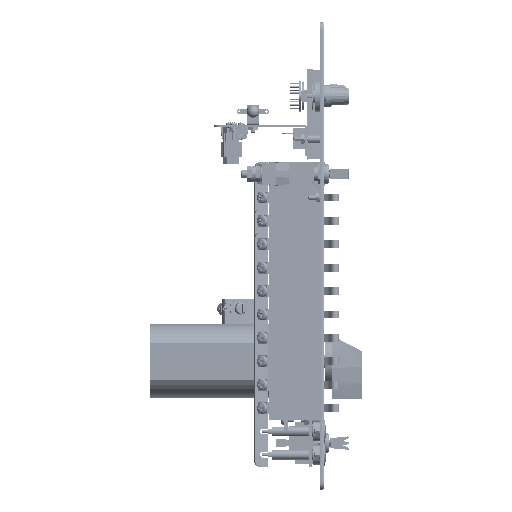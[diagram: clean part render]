
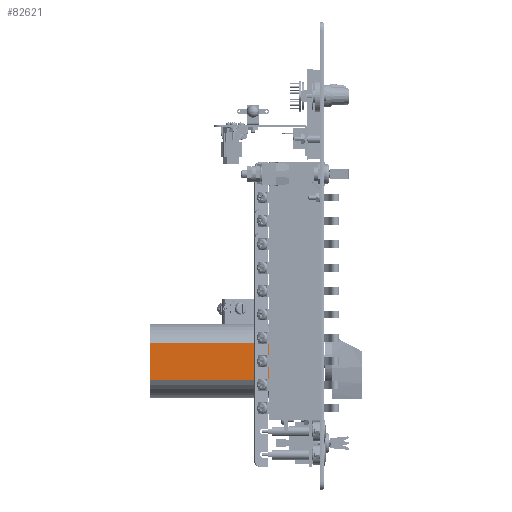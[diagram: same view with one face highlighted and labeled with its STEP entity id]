
A CAD part, left-side view. The second image highlights one B-rep face of the part: STEP entity #82621.
In plain terms, the highlighted planar face has unit normal (-1, 0, 0) as drawn and (0, -1, 0) by its records, which use the part's own axes.
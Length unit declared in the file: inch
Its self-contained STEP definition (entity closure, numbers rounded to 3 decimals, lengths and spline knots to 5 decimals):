
#82449=CARTESIAN_POINT('',(-0.73627,0.54023,-0.4465));
#82450=VERTEX_POINT('',#82449);
#82490=CARTESIAN_POINT('',(-0.73627,0.54023,-1.28119));
#82491=VERTEX_POINT('',#82490);
#82501=CARTESIAN_POINT('',(-0.73627,0.54023,-1.45264));
#82502=VERTEX_POINT('',#82501);
#82503=CARTESIAN_POINT('',(-0.73627,0.54023,-1.45264));
#82504=DIRECTION('',(0.0,0.0,1.0));
#82505=VECTOR('',#82504,0.17145);
#82506=LINE('',#82503,#82505);
#82507=EDGE_CURVE('',#82502,#82491,#82506,.T.);
#82541=CARTESIAN_POINT('',(-0.73627,0.54023,-0.27505));
#82542=VERTEX_POINT('',#82541);
#82550=CARTESIAN_POINT('',(-0.73627,0.54023,-0.4465));
#82551=DIRECTION('',(0.0,0.0,1.0));
#82552=VECTOR('',#82551,0.17145);
#82553=LINE('',#82550,#82552);
#82554=EDGE_CURVE('',#82450,#82542,#82553,.T.);
#82566=CARTESIAN_POINT('',(-5.29627,0.54023,-0.27505));
#82567=VERTEX_POINT('',#82566);
#82575=CARTESIAN_POINT('',(-0.73627,0.54023,-0.27505));
#82576=DIRECTION('',(-1.0,0.0,0.0));
#82577=VECTOR('',#82576,4.56);
#82578=LINE('',#82575,#82577);
#82579=EDGE_CURVE('',#82542,#82567,#82578,.T.);
#82591=CARTESIAN_POINT('',(-0.73627,0.54023,-0.27505));
#82592=DIRECTION('',(0.0,-1.0,0.0));
#82593=DIRECTION('',(0.0,0.0,-1.0));
#82594=AXIS2_PLACEMENT_3D('',#82591,#82592,#82593);
#82595=PLANE('',#82594);
#82596=CARTESIAN_POINT('',(-5.29627,0.54023,-1.45264));
#82597=VERTEX_POINT('',#82596);
#82598=CARTESIAN_POINT('',(-5.29627,0.54023,-0.27505));
#82599=DIRECTION('',(0.0,0.0,-1.0));
#82600=VECTOR('',#82599,1.17759);
#82601=LINE('',#82598,#82600);
#82602=EDGE_CURVE('',#82567,#82597,#82601,.T.);
#82603=ORIENTED_EDGE('',*,*,#82602,.T.);
#82604=CARTESIAN_POINT('',(-0.73627,0.54023,-1.45264));
#82605=DIRECTION('',(-1.0,0.0,0.0));
#82606=VECTOR('',#82605,4.56);
#82607=LINE('',#82604,#82606);
#82608=EDGE_CURVE('',#82502,#82597,#82607,.T.);
#82609=ORIENTED_EDGE('',*,*,#82608,.F.);
#82610=ORIENTED_EDGE('',*,*,#82507,.T.);
#82611=CARTESIAN_POINT('',(-0.73627,0.54023,-0.4465));
#82612=DIRECTION('',(0.0,0.0,-1.0));
#82613=VECTOR('',#82612,0.8347);
#82614=LINE('',#82611,#82613);
#82615=EDGE_CURVE('',#82450,#82491,#82614,.T.);
#82616=ORIENTED_EDGE('',*,*,#82615,.F.);
#82617=ORIENTED_EDGE('',*,*,#82554,.T.);
#82618=ORIENTED_EDGE('',*,*,#82579,.T.);
#82619=EDGE_LOOP('',(#82603,#82609,#82610,#82616,#82617,#82618));
#82620=FACE_OUTER_BOUND('',#82619,.T.);
#82621=ADVANCED_FACE('',(#82620),#82595,.T.);
